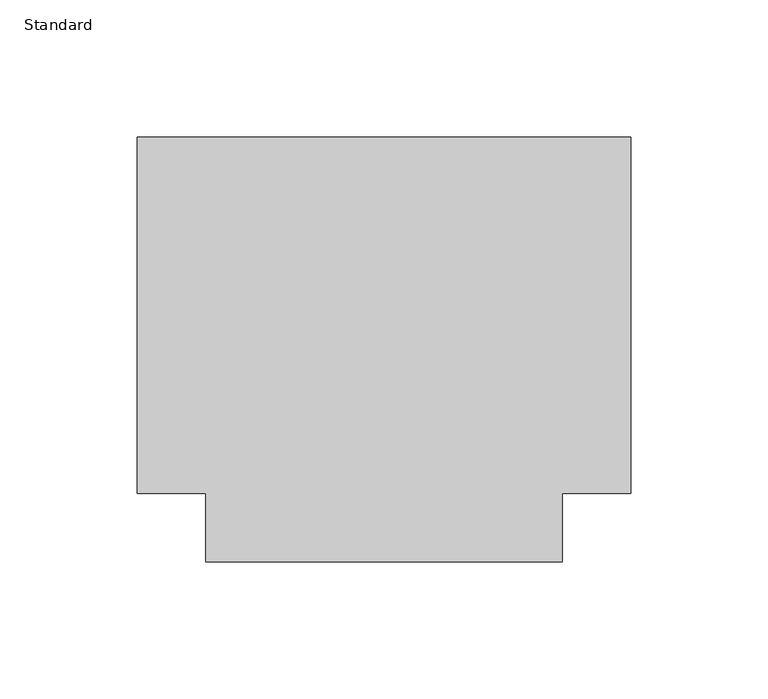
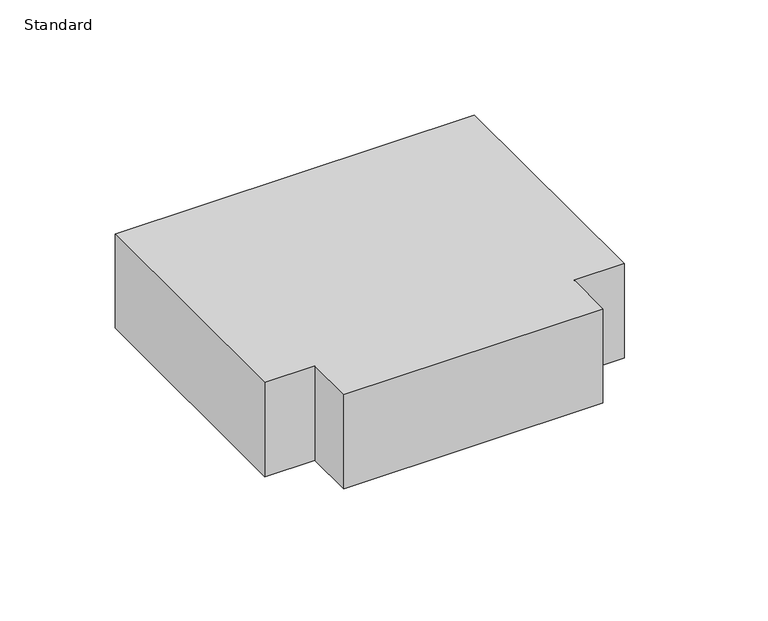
"""IFC4 building model written with IfcOpenShell, lengths in millimetres: duct fitting geometry, Té rectangulaire : Standard."""

from ifc_helpers import new_model, si_unit, frame, origin, place, context, project, spatial, polyline, outline, extrude, source, transform, mapped, element, save


def standard_70f4f62f(model_context):
    return source(origin(), model_context, "Body", "SweptSolid", [
        extrude(outline(polyline([(-90.0, -65.0), (-90.0, 65.0), (90.0, 65.0), (90.0, -65.0), (65.0, -65.0), (65.0, -90.0), (-65.0, -90.0), (-65.0, -65.0), (-90.0, -65.0)])), frame((0.0, 0.0, -25.0), z_axis=(0.0, 0.0, 1.0), x_axis=(1.0, 0.0, 0.0)), (0.0, 0.0, 1.0), 50.0),
    ])


if __name__ == "__main__":
    model = new_model("IFC4")
    model_context = context("Model", 3, world=origin())
    ifc_project = project(units=[si_unit("LENGTHUNIT", "METRE", prefix="MILLI")], contexts=[model_context])
    site = spatial("IfcSite", under=ifc_project)
    building = spatial("IfcBuilding", under=site)
    placement = place(None, origin())
    standard_shape = standard_70f4f62f(model_context)
    element("IfcDuctFitting", 1, ObjectType="Té rectangulaire : Standard", at=placement, inside=building, context=model_context, shape_type="MappedRepresentation", body=[
        mapped(standard_shape, transform((0.0, 0.0, 0.0), x_axis=(1.0, 0.0, 0.0), y_axis=(0.0, 1.0, 0.0), z_axis=(0.0, 0.0, 1.0))),
    ])
    save(model, "model.ifc")
